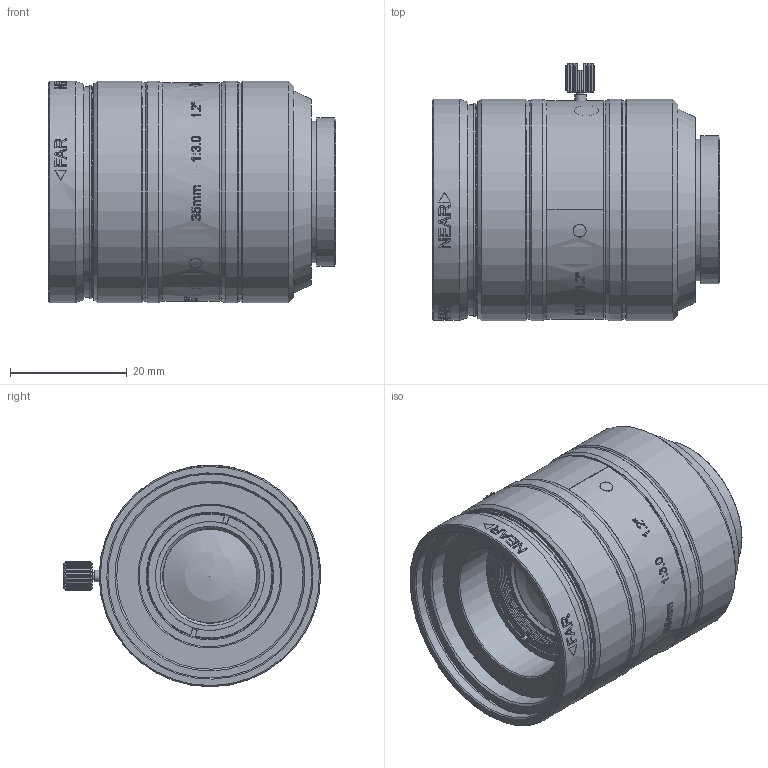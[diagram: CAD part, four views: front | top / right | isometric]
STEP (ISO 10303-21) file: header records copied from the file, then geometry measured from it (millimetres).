
FILE_DESCRIPTION(/* description */ ('CAx-IF Rec.Pracs.---Representation and Presentation of Product Manufacturing Information (PMI)---4.0---2014-10-13','CAx-IF Rec.Pracs.---3D Tessellated Geometry---0.4---2014-09-14','2;1'),/* implementation_level */ '2;1');
FILE_NAME(/* name */ 'UH60041-B',/* time_stamp */ '2026-07-01T15:51:44+08:00',/* author */ (''),/* organization */ (''),/* preprocessor_version */ 'ST-DEVELOPER v16.7',/* originating_system */ $,/* authorisation */ $);
FILE_SCHEMA (('AP242_MANAGED_MODEL_BASED_3D_ENGINEERING_MIM_LF { 1 0 10303 442 20130219 1 4 }'));
Length unit declared in the file: millimetre
Products named in the file (1): UH60041-B
Bounding box: 49.26 x 44.15 x 38 mm (x, y, z)
Volume: 42940.6 mm3; surface area: 13208.9 mm2
Topology: 4 solids, 5 shells, 709 faces, 1879 edges, 1248 vertices
Faces by surface type: plane 380, bspline 158, cylinder 100, cone 67, sphere 2, torus 2
Full cylindrical faces by diameter (mm): 1.2 x1, 1.6 x1, 1.85 x1, 2 x2, 2.05 x1, 2.5 x1, 3.8 x1, 4.2 x1, 16.086 x1, 16.431 x1, 18.685 x1, 19.699 x1, 20.772 x2, 21.666 x1, 22.199 x1, 22.2 x1, 22.699 x1, 24.287 x1, 24.3 x1, 25.4 x1, 30.801 x1, 31.987 x1, 35 x1, 35.7 x1, 36.098 x1, 36.598 x1, 37.3 x1, 37.505 x1, 37.535 x1, 37.998 x2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
Entity records: 30552 total; most frequent: CARTESIAN_POINT 12192, ORIENTED_EDGE 3526, DIRECTION 2785, EDGE_CURVE 1763, VERTEX_POINT 1220, AXIS2_PLACEMENT_3D 1058, EDGE_LOOP 875, FACE_BOUND 875
